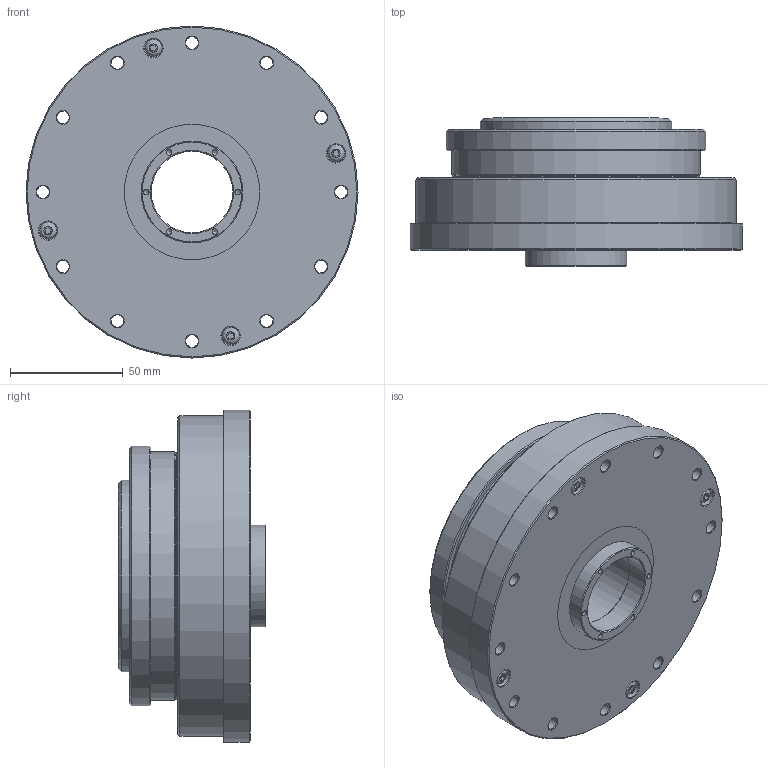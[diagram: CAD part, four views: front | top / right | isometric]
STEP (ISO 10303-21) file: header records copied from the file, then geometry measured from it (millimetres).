
FILE_DESCRIPTION(/* description */ (''),/* implementation_level */ '2;1');
FILE_NAME(/* name */ 'LHT-32-U-3',/* time_stamp */ '2017-09-16T15:11:28+08:00',/* author */ (''),/* organization */ (''),/* preprocessor_version */ 'ST-DEVELOPER v9',/* originating_system */ 'UGS - NX 4.0',/* authorisation */ '');
FILE_SCHEMA (('AUTOMOTIVE_DESIGN { 1 0 10303 214 1 1 1 1 }'));
Length unit declared in the file: millimetre
Products named in the file (1): Admi096Fd2mb
Bounding box: 147 x 65.5 x 147 mm (x, y, z)
Volume: 631348.5 mm3; surface area: 298075.8 mm2
Topology: 92 solids, 92 shells, 801 faces, 2013 edges, 1330 vertices
Faces by surface type: cylinder 273, cone 217, plane 212, sphere 60, torus 31, revolution 4, bspline 4
Full cylindrical faces by diameter (mm): 2.459 x6, 3.432 x16, 4 x8, 4.351 x16, 4.5 x20, 5.5 x68, 7 x4, 7.5 x4, 7.6 x4, 8 x8, 36 x2, 36.5 x1, 42.5 x2, 44 x1, 45 x7, 48 x1, 48.3 x1, 50 x2, 51.8 x1, 53.5 x1, 54 x2, 54.7 x1, 57 x1, 58 x2, 58.5 x1, 59 x1, 60 x4, 61.2 x1, 64 x2, 67 x1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
Entity records: 19525 total; most frequent: DIRECTION 3540, CARTESIAN_POINT 3052, ORIENTED_EDGE 2176, AXIS2_PLACEMENT_3D 1650, EDGE_LOOP 1494, FACE_BOUND 1121, EDGE_CURVE 1088, VERTEX_POINT 1050
